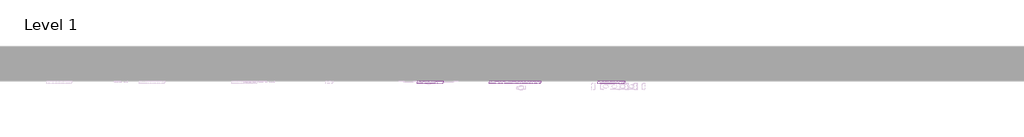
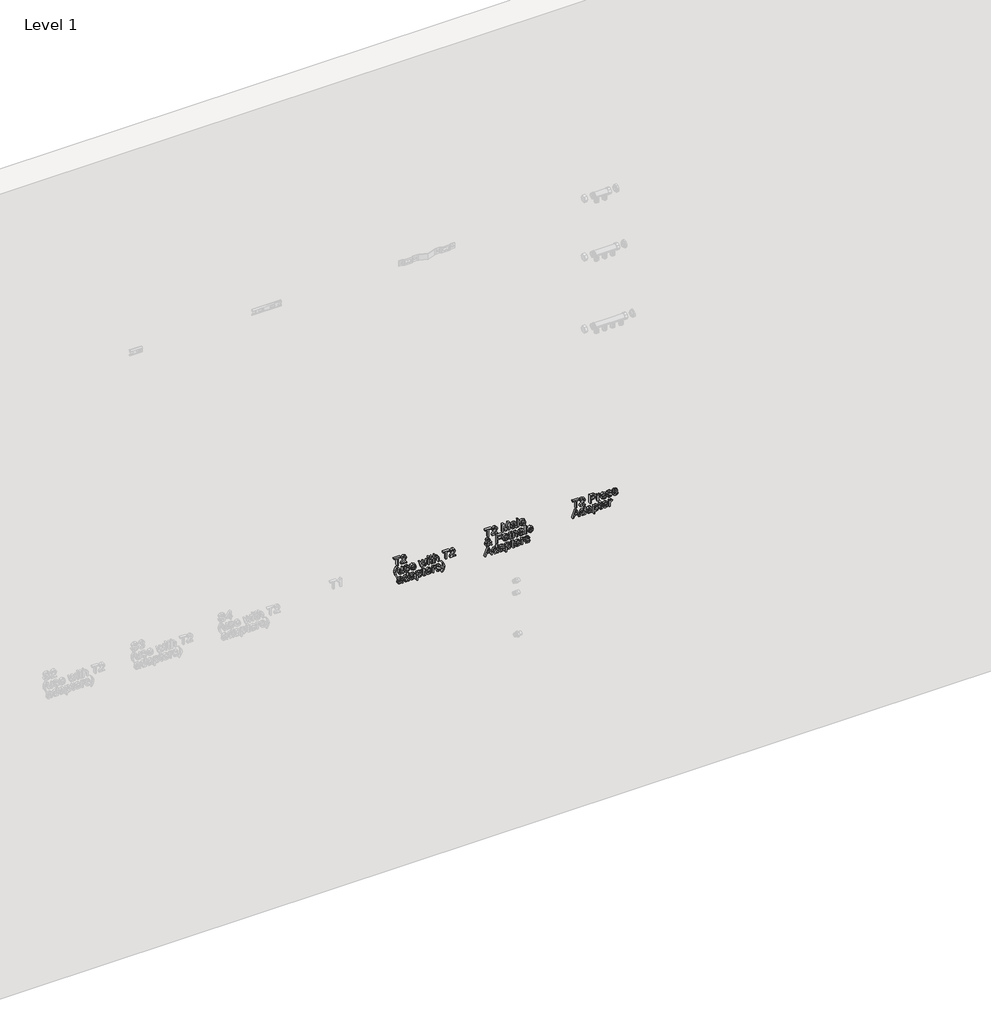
# One storey, part 16 of 57: 3 proxies.
"""IFC4 building model written with IfcOpenShell, lengths in millimetres."""

from ifc_helpers import new_model, si_unit, frame, origin, place, context, project, spatial, polyline, outline, extrude, element, save

model = new_model("IFC4")

# Units and contexts
model_context = context("Model", 3, world=origin())
ifc_project = project(units=[si_unit("LENGTHUNIT", "METRE", prefix="MILLI")], contexts=[model_context])

# Site, building, storey
site = spatial("IfcSite", under=ifc_project)
building = spatial("IfcBuilding", under=site)
storey = spatial("IfcBuildingStorey", under=building, Name="Level 1", Elevation=27.3876384)

# Proxies
placement = place(None, origin())
element("IfcBuildingElementProxy", 1, Name="50mm Arial", ObjectType="50mm Arial", at=placement, inside=storey, context=model_context, shape_type="SweptSolid", body=[
    extrude(outline(polyline([(1988.1712456, 14625.3304746), (1988.1712456, 14631.608994), (2032.1208813, 14631.608994), (2032.1208813, 14648.0901074), (2038.3994007, 14648.0901074), (2038.3994007, 14608.8493612), (2032.1208813, 14608.8493612), (2032.1208813, 14625.3304746), (1988.1712456, 14625.3304746)])), frame((0.0, 4529.8703674, 0.0), z_axis=(0.0, 1.0, 0.0), x_axis=(0.0, 0.0, 1.0)), (0.0, 0.0, 1.0), 15.0),
    extrude(outline(polyline([(1994.449765, 14684.9764088), (1994.449765, 14660.3160524), (1997.644207, 14663.1487437), (2003.6836031, 14670.3714936), (2012.2859104, 14679.3662084), (2018.4418024, 14683.0756851), (2024.3953594, 14684.1915939), (2034.3772242, 14680.0529214), (2038.3994007, 14668.8141265), (2034.7818944, 14657.6121197), (2024.2727321, 14652.7989969), (2023.4879171, 14659.0775163), (2029.8277502, 14661.7201353), (2032.1208813, 14668.6792364), (2029.7725679, 14675.3562946), (2024.0152147, 14677.9130745), (2016.9028294, 14675.2030104), (2006.442718, 14664.3627543), (1999.1647859, 14656.5023424), (1992.4999904, 14652.6886323), (1988.1712456, 14652.014182), (1988.1712456, 14684.9764088), (1994.449765, 14684.9764088)])), frame((0.0, 4529.8703674, 0.0), z_axis=(0.0, 1.0, 0.0), x_axis=(0.0, 0.0, 1.0)), (0.0, 0.0, 1.0), 15.0),
    extrude(outline(polyline([(1913.0571681, 14624.5456597), (1913.0571681, 14629.2545492), (1929.1397426, 14621.0139926), (1945.2345799, 14618.2671403), (1957.8284069, 14619.8490329), (1967.4669151, 14623.3807001), (1977.4119917, 14629.2545492), (1977.4119917, 14624.5456597), (1960.5384709, 14614.7109477), (1945.2713681, 14611.9886209), (1927.7847106, 14615.6306527), (1913.0571681, 14624.5456597)])), frame((0.0, 4529.8703674, 0.0), z_axis=(0.0, 1.0, 0.0), x_axis=(0.0, 0.0, 1.0)), (0.0, 0.0, 1.0), 15.0),
    extrude(outline(polyline([(1927.1838367, 14659.0775163), (1927.1838367, 14665.3560357), (1964.0701381, 14665.3560357), (1964.0701381, 14659.0775163), (1944.8789606, 14659.0775163), (1937.8830714, 14658.0597095), (1934.0754927, 14654.5954873), (1932.6775411, 14649.3531689), (1934.0448359, 14644.6749362), (1937.8033636, 14642.1917327), (1944.2045103, 14641.811588), (1964.0701381, 14641.811588), (1964.0701381, 14635.5330686), (1941.2491916, 14635.5330686), (1935.4121306, 14635.9009506), (1930.7890802, 14637.7710174), (1927.6498205, 14641.8422448), (1926.3990218, 14647.7467509), (1928.1801837, 14654.1601603), (1933.5236697, 14659.0775163), (1927.1838367, 14659.0775163)])), frame((0.0, 4529.8703674, 0.0), z_axis=(0.0, 1.0, 0.0), x_axis=(0.0, 0.0, 1.0)), (0.0, 0.0, 1.0), 15.0),
    extrude(outline(polyline([(1938.1712456, 14671.6345551), (1929.3666032, 14676.4415465), (1926.3990218, 14687.3921672), (1927.9379948, 14695.16674), (1932.2973964, 14700.4213212), (1938.3061357, 14702.2423371), (1943.7630519, 14700.6911013), (1947.1107781, 14696.4114075), (1950.0660968, 14687.1959635), (1951.4027347, 14681.7880982), (1952.7884235, 14679.4459161), (1954.6155708, 14678.6978894), (1957.3869485, 14680.5005112), (1958.5764336, 14686.5092504), (1957.3317662, 14692.0336117), (1953.8675441, 14694.3941879), (1954.652359, 14700.6727072), (1960.2870849, 14698.5144662), (1963.6225483, 14693.6584239), (1964.854953, 14686.0187411), (1964.0885322, 14680.6170071), (1962.2307281, 14676.6254875), (1958.6561414, 14673.5475415), (1953.9779087, 14672.41937), (1948.9133999, 14673.823453), (1945.3265504, 14677.9498627), (1942.2547357, 14687.4044299), (1940.4643767, 14693.8668903), (1937.6439481, 14695.9638177), (1934.1613318, 14693.8791531), (1932.6775411, 14687.4780063), (1934.2962219, 14680.8193422), (1938.9560605, 14677.9130745), (1938.1712456, 14671.6345551)])), frame((0.0, 4529.8703674, 0.0), z_axis=(0.0, 1.0, 0.0), x_axis=(0.0, 0.0, 1.0)), (0.0, 0.0, 1.0), 15.0),
    extrude(outline(polyline([(1938.1712456, 14735.1309875), (1933.9896536, 14731.0842855), (1932.6775411, 14724.9283935), (1935.5102325, 14716.8411209), (1943.6649501, 14713.229746), (1943.6649501, 14741.446295), (1945.3572072, 14741.4830832), (1959.7413932, 14736.7190114), (1964.854953, 14724.4501469), (1959.7291305, 14711.8195317), (1945.320419, 14706.9512266), (1931.3715601, 14711.7704808), (1926.3990218, 14724.8057661), (1929.280764, 14735.5295263), (1937.3864307, 14741.2868795), (1938.1712456, 14735.1309875)]), holes=[polyline([(1949.9434694, 14713.229746), (1956.2281202, 14716.6939681), (1958.5764336, 14724.4256214), (1955.6333776, 14732.6907036), (1949.9434694, 14735.2045639), (1949.9434694, 14713.229746)])]), frame((0.0, 4529.8703674, 0.0), z_axis=(0.0, 1.0, 0.0), x_axis=(0.0, 0.0, 1.0)), (0.0, 0.0, 1.0), 15.0),
    extrude(outline(polyline([(1927.1838367, 14773.5010796), (1927.1838367, 14781.1775505), (1955.5598012, 14787.3947562), (1948.815298, 14788.7927078), (1927.1838367, 14793.611962), (1927.1838367, 14801.2025938), (1964.0701381, 14812.5088338), (1964.0701381, 14805.9605343), (1942.6961941, 14799.583913), (1935.6205971, 14797.5973502), (1942.3283121, 14796.2116614), (1964.0701381, 14791.1716781), (1964.0701381, 14783.6914108), (1942.2669985, 14778.626902), (1934.8603076, 14777.0695349), (1942.5490413, 14775.1688113), (1964.0701381, 14768.8044527), (1964.0701381, 14762.2806787), (1927.1838367, 14773.5010796)])), frame((0.0, 4529.8703674, 0.0), z_axis=(0.0, 1.0, 0.0), x_axis=(0.0, 0.0, 1.0)), (0.0, 0.0, 1.0), 15.0),
    extrude(outline(polyline([(14823.1038352, 4529.8703674), (14816.8253159, 4529.8703674), (14816.8253159, 4544.8703674), (14823.1038352, 4544.8703674), (14823.1038352, 4529.8703674)])), frame((0.0, 0.0, 1971.1334724), z_axis=(0.0, 0.0, 1.0), x_axis=(1.0, 0.0, 0.0)), (0.0, 0.0, 1.0), 6.2785194),
    extrude(outline(polyline([(14823.1038352, 4529.8703674), (14816.8253159, 4529.8703674), (14816.8253159, 4544.8703674), (14823.1038352, 4544.8703674), (14823.1038352, 4529.8703674)])), frame((0.0, 0.0, 1927.1838367), z_axis=(0.0, 0.0, 1.0), x_axis=(1.0, 0.0, 0.0)), (0.0, 0.0, 1.0), 36.8863014),
    extrude(outline(polyline([(1932.4200237, 14845.863468), (1932.6775411, 14843.1288785), (1934.247171, 14839.9160424), (1937.4845325, 14839.5849486), (1957.7916187, 14839.5849486), (1957.7916187, 14845.863468), (1964.0701381, 14845.863468), (1964.0701381, 14839.5849486), (1976.7252787, 14839.5849486), (1973.034196, 14833.3064292), (1964.0701381, 14833.3064292), (1964.0701381, 14828.5975397), (1957.7916187, 14828.5975397), (1957.7916187, 14833.3064292), (1937.3005915, 14833.3064292), (1930.1759436, 14834.0667187), (1927.4413541, 14836.6909436), (1926.3990218, 14841.9516561), (1926.9998957, 14846.6482829), (1932.4200237, 14845.863468)])), frame((0.0, 4529.8703674, 0.0), z_axis=(0.0, 1.0, 0.0), x_axis=(0.0, 0.0, 1.0)), (0.0, 0.0, 1.0), 15.0),
    extrude(outline(polyline([(1927.1838367, 14852.1419874), (1927.1838367, 14858.4205068), (1946.7796843, 14858.4205068), (1953.3892975, 14859.444445), (1957.178482, 14862.8780103), (1958.5764336, 14868.0222268), (1956.5040317, 14873.6876096), (1949.8821558, 14875.6864351), (1927.1838367, 14875.6864351), (1927.1838367, 14881.9649545), (1950.5320806, 14881.9649545), (1958.7849001, 14880.6773675), (1963.2424036, 14876.3976736), (1964.854953, 14869.346602), (1958.9443156, 14858.4205068), (1977.4119917, 14858.4205068), (1977.4119917, 14852.1419874), (1927.1838367, 14852.1419874)])), frame((0.0, 4529.8703674, 0.0), z_axis=(0.0, 1.0, 0.0), x_axis=(0.0, 0.0, 1.0)), (0.0, 0.0, 1.0), 15.0),
    extrude(outline(polyline([(1927.1838367, 14923.5601454), (1927.1838367, 14929.8386648), (1971.1334724, 14929.8386648), (1971.1334724, 14946.3197782), (1977.4119917, 14946.3197782), (1977.4119917, 14907.079032), (1971.1334724, 14907.079032), (1971.1334724, 14923.5601454), (1927.1838367, 14923.5601454)])), frame((0.0, 4529.8703674, 0.0), z_axis=(0.0, 1.0, 0.0), x_axis=(0.0, 0.0, 1.0)), (0.0, 0.0, 1.0), 15.0),
    extrude(outline(polyline([(1933.4623561, 14983.2060795), (1933.4623561, 14958.5457231), (1936.6567981, 14961.3784145), (1942.6961941, 14968.6011643), (1951.2985015, 14977.5958791), (1957.4543935, 14981.3053559), (1963.4079505, 14982.4212646), (1973.3898153, 14978.2825922), (1977.4119917, 14967.0437972), (1973.7944855, 14955.8417905), (1963.2853231, 14951.0286677), (1962.5005082, 14957.3071871), (1968.8403413, 14959.9498061), (1971.1334724, 14966.9089071), (1968.785159, 14973.5859654), (1963.0278057, 14976.1427452), (1955.9154205, 14973.4326812), (1945.4553091, 14962.5924251), (1938.177377, 14954.7320131), (1931.5125815, 14950.9183031), (1927.1838367, 14950.2438528), (1927.1838367, 14983.2060795), (1933.4623561, 14983.2060795)])), frame((0.0, 4529.8703674, 0.0), z_axis=(0.0, 1.0, 0.0), x_axis=(0.0, 0.0, 1.0)), (0.0, 0.0, 1.0), 15.0),
    extrude(outline(polyline([(1870.9053173, 14655.1534417), (1866.1964278, 14656.7230715), (1866.1964278, 14663.0015909), (1871.4755344, 14661.7507921), (1882.3832355, 14661.4319611), (1890.1945966, 14661.4319611), (1895.688301, 14661.1253928), (1899.9496008, 14659.2001436), (1902.7516353, 14654.9020557), (1903.8675441, 14647.2930297), (1902.6044825, 14639.0095535), (1899.0115017, 14633.5403745), (1892.8801351, 14630.8241791), (1892.0953202, 14637.1026985), (1896.3811455, 14640.1315936), (1897.5890247, 14646.4836893), (1895.7741402, 14653.4243963), (1889.7408754, 14655.1166535), (1887.5826344, 14644.2273464), (1886.638404, 14638.7949557), (1884.5782648, 14634.3987658), (1880.9730212, 14631.241112), (1876.0066143, 14630.0393642), (1868.391457, 14633.2215434), (1865.4116128, 14642.3388855), (1866.6501489, 14649.0649947), (1870.9053173, 14655.1534417)]), holes=[polyline([(1883.4623561, 14655.1534417), (1881.6842597, 14655.1166535), (1876.8282174, 14654.1233721), (1873.192317, 14650.0276192), (1871.6901322, 14643.6755235), (1873.0512956, 14638.1879504), (1876.4480727, 14636.3178835), (1878.8638311, 14637.1762749), (1880.5193001, 14639.6226901), (1881.537107, 14645.0244241), (1883.4623561, 14655.1534417)])]), frame((0.0, 4529.8703674, 0.0), z_axis=(0.0, 1.0, 0.0), x_axis=(0.0, 0.0, 1.0)), (0.0, 0.0, 1.0), 15.0),
    extrude(outline(polyline([(1866.1964278, 14692.824558), (1866.1964278, 14699.1030774), (1916.4245828, 14699.1030774), (1916.4245828, 14692.824558), (1897.711652, 14692.824558), (1902.1568928, 14688.6920169), (1903.8675441, 14682.9040069), (1901.4763111, 14674.8903107), (1894.5969178, 14669.5069709), (1884.6027902, 14667.7104805), (1874.6147941, 14669.660255), (1867.839634, 14675.1539595), (1865.4116128, 14682.9285323), (1867.0885416, 14688.6705571), (1872.1193279, 14692.824558), (1866.1964278, 14692.824558)]), holes=[polyline([(1884.6273157, 14673.9889999), (1894.4681591, 14676.6377502), (1897.5890247, 14683.2473634), (1894.3394004, 14690.0593117), (1884.1490691, 14692.824558), (1874.7619469, 14690.1083626), (1871.6901322, 14683.5048808), (1874.9090997, 14676.8216912), (1884.6273157, 14673.9889999)])]), frame((0.0, 4529.8703674, 0.0), z_axis=(0.0, 1.0, 0.0), x_axis=(0.0, 0.0, 1.0)), (0.0, 0.0, 1.0), 15.0),
    extrude(outline(polyline([(1870.9053173, 14732.0653042), (1866.1964278, 14733.634934), (1866.1964278, 14739.9134534), (1871.4755344, 14738.6626546), (1882.3832355, 14738.3438235), (1890.1945966, 14738.3438235), (1895.688301, 14738.0372552), (1899.9496008, 14736.1120061), (1902.7516353, 14731.8139181), (1903.8675441, 14724.2048922), (1902.6044825, 14715.9214159), (1899.0115017, 14710.4522369), (1892.8801351, 14707.7360415), (1892.0953202, 14714.0145609), (1896.3811455, 14717.043456), (1897.5890247, 14723.3955518), (1895.7741402, 14730.3362588), (1889.7408754, 14732.028516), (1887.5826344, 14721.1392089), (1886.638404, 14715.7068181), (1884.5782648, 14711.3106283), (1880.9730212, 14708.1529745), (1876.0066143, 14706.9512266), (1868.391457, 14710.1334059), (1865.4116128, 14719.250748), (1866.6501489, 14725.9768571), (1870.9053173, 14732.0653042)]), holes=[polyline([(1883.4623561, 14732.0653042), (1881.6842597, 14732.028516), (1876.8282174, 14731.0352346), (1873.192317, 14726.9394817), (1871.6901322, 14720.5873859), (1873.0512956, 14715.0998128), (1876.4480727, 14713.229746), (1878.8638311, 14714.0881373), (1880.5193001, 14716.5345526), (1881.537107, 14721.9362866), (1883.4623561, 14732.0653042)])]), frame((0.0, 4529.8703674, 0.0), z_axis=(0.0, 1.0, 0.0), x_axis=(0.0, 0.0, 1.0)), (0.0, 0.0, 1.0), 15.0),
    extrude(outline(polyline([(1852.0697591, 14746.9767877), (1852.0697591, 14753.2553071), (1871.101521, 14753.2553071), (1867.0241622, 14757.234564), (1865.4116128, 14762.6976116), (1867.8212399, 14770.6377314), (1874.7496841, 14776.3889532), (1884.9216213, 14778.3693846), (1894.5969178, 14776.6158138), (1901.4395229, 14771.4164149), (1903.8675441, 14763.4579011), (1902.1323673, 14757.5963146), (1896.9268371, 14753.2553071), (1903.0827291, 14753.2553071), (1903.0827291, 14746.9767877), (1852.0697591, 14746.9767877)]), holes=[polyline([(1884.3452728, 14753.2553071), (1894.198379, 14756.1554435), (1897.5890247, 14762.820239), (1894.400714, 14769.3562757), (1884.8112567, 14772.0908652), (1874.8907056, 14769.2888307), (1871.6901322, 14762.5627216), (1874.780341, 14755.9715025), (1884.3452728, 14753.2553071)])]), frame((0.0, 4529.8703674, 0.0), z_axis=(0.0, 1.0, 0.0), x_axis=(0.0, 0.0, 1.0)), (0.0, 0.0, 1.0), 15.0),
    extrude(outline(polyline([(1871.4326148, 14798.7745726), (1871.6901322, 14796.0399831), (1873.2597621, 14792.827147), (1876.4971236, 14792.4960532), (1896.8042098, 14792.4960532), (1896.8042098, 14798.7745726), (1903.0827291, 14798.7745726), (1903.0827291, 14792.4960532), (1915.7378698, 14792.4960532), (1912.0467871, 14786.2175339), (1903.0827291, 14786.2175339), (1903.0827291, 14781.5086443), (1896.8042098, 14781.5086443), (1896.8042098, 14786.2175339), (1876.3131826, 14786.2175339), (1869.1885346, 14786.9778233), (1866.4539451, 14789.6020482), (1865.4116128, 14794.8627607), (1866.0124868, 14799.5593875), (1871.4326148, 14798.7745726)])), frame((0.0, 4529.8703674, 0.0), z_axis=(0.0, 1.0, 0.0), x_axis=(0.0, 0.0, 1.0)), (0.0, 0.0, 1.0), 15.0),
    extrude(outline(polyline([(1877.1838367, 14830.8784081), (1873.0022447, 14826.8317061), (1871.6901322, 14820.6758141), (1874.5228236, 14812.5885415), (1882.6775411, 14808.9771666), (1882.6775411, 14837.1937156), (1884.3697983, 14837.2305038), (1898.7539843, 14832.466432), (1903.8675441, 14820.1975675), (1898.7417216, 14807.5669523), (1884.3330101, 14802.6986472), (1870.3841511, 14807.5179014), (1865.4116128, 14820.5531867), (1868.2933551, 14831.2769469), (1876.3990218, 14837.0343001), (1877.1838367, 14830.8784081)]), holes=[polyline([(1888.9560605, 14808.9771666), (1895.2407113, 14812.4413887), (1897.5890247, 14820.173042), (1894.6459687, 14828.4381242), (1888.9560605, 14830.9519845), (1888.9560605, 14808.9771666)])]), frame((0.0, 4529.8703674, 0.0), z_axis=(0.0, 1.0, 0.0), x_axis=(0.0, 0.0, 1.0)), (0.0, 0.0, 1.0), 15.0),
    extrude(outline(polyline([(1866.1964278, 14843.5090232), (1866.1964278, 14849.7875426), (1885.5838089, 14849.7875426), (1892.9169233, 14850.8053495), (1896.3504886, 14853.0678237), (1897.5890247, 14856.617885), (1896.3014377, 14861.0324689), (1901.9300322, 14863.1293963), (1903.8675441, 14856.8263515), (1902.6535335, 14852.9022768), (1897.6258129, 14849.0027277), (1903.0827291, 14849.0027277), (1903.0827291, 14843.5090232), (1866.1964278, 14843.5090232)])), frame((0.0, 4529.8703674, 0.0), z_axis=(0.0, 1.0, 0.0), x_axis=(0.0, 0.0, 1.0)), (0.0, 0.0, 1.0), 15.0),
    extrude(outline(polyline([(1877.1838367, 14864.6990262), (1868.3791943, 14869.5060176), (1865.4116128, 14880.4566383), (1866.9505858, 14888.2312111), (1871.3099875, 14893.4857923), (1877.3187267, 14895.3068082), (1882.775643, 14893.7555724), (1886.1233692, 14889.4758785), (1889.0786879, 14880.2604346), (1890.4153258, 14874.8525692), (1891.8010146, 14872.5103872), (1893.6281619, 14871.7623605), (1896.3995396, 14873.5649822), (1897.5890247, 14879.5737215), (1896.3443573, 14885.0980828), (1892.8801351, 14887.4586589), (1893.6649501, 14893.7371783), (1899.299676, 14891.5789373), (1902.6351394, 14886.7228949), (1903.8675441, 14879.0832122), (1903.1011232, 14873.6814782), (1901.2433192, 14869.6899586), (1897.6687324, 14866.6120125), (1892.9904997, 14865.4838411), (1887.9259909, 14866.887924), (1884.3391415, 14871.0143337), (1881.2673268, 14880.468901), (1879.4769678, 14886.9313614), (1876.6565391, 14889.0282888), (1873.1739229, 14886.9436241), (1871.6901322, 14880.5424774), (1873.308813, 14873.8838133), (1877.9686516, 14870.9775455), (1877.1838367, 14864.6990262)])), frame((0.0, 4529.8703674, 0.0), z_axis=(0.0, 1.0, 0.0), x_axis=(0.0, 0.0, 1.0)), (0.0, 0.0, 1.0), 15.0),
    extrude(outline(polyline([(1852.0697591, 14903.9397723), (1866.7973017, 14912.8363852), (1884.2839592, 14916.4968111), (1899.551062, 14913.7744843), (1916.4245828, 14903.9397723), (1916.4245828, 14899.2308828), (1906.3814044, 14905.1415202), (1896.7306334, 14908.6363991), (1884.247171, 14910.2182917), (1868.1523337, 14907.4714395), (1852.0697591, 14899.2308828), (1852.0697591, 14903.9397723)])), frame((0.0, 4529.8703674, 0.0), z_axis=(0.0, 1.0, 0.0), x_axis=(0.0, 0.0, 1.0)), (0.0, 0.0, 1.0), 15.0),
])
element("IfcBuildingElementProxy", 2, Name="50mm Arial", ObjectType="50mm Arial", at=placement, inside=storey, context=model_context, shape_type="SweptSolid", body=[
    extrude(outline(polyline([(1979.5382617, 15180.547799), (1979.5382617, 15186.8263184), (2023.4878973, 15186.8263184), (2023.4878973, 15203.3074318), (2029.7664167, 15203.3074318), (2029.7664167, 15164.0666856), (2023.4878973, 15164.0666856), (2023.4878973, 15180.547799), (1979.5382617, 15180.547799)])), frame((0.0, 4529.8703674, 0.0), z_axis=(0.0, 1.0, 0.0), x_axis=(0.0, 0.0, 1.0)), (0.0, 0.0, 1.0), 15.0),
    extrude(outline(polyline([(1985.816781, 15240.1937332), (1985.816781, 15215.5333768), (1989.011223, 15218.3660681), (1995.0506191, 15225.588818), (2003.6529264, 15234.5835327), (2009.8088185, 15238.2930095), (2015.7623754, 15239.4089182), (2025.7442403, 15235.2702458), (2029.7664167, 15224.0314508), (2026.1489104, 15212.8294441), (2015.6397481, 15208.0163213), (2014.8549332, 15214.2948407), (2021.1947662, 15216.9374597), (2023.4878973, 15223.8965608), (2021.1395839, 15230.573619), (2015.3822307, 15233.1303989), (2008.2698455, 15230.4203348), (1997.8097341, 15219.5800787), (1990.5318019, 15211.7196667), (1983.8670065, 15207.9059567), (1979.5382617, 15207.2315064), (1979.5382617, 15240.1937332), (1985.816781, 15240.1937332)])), frame((0.0, 4529.8703674, 0.0), z_axis=(0.0, 1.0, 0.0), x_axis=(0.0, 0.0, 1.0)), (0.0, 0.0, 1.0), 15.0),
    extrude(outline(polyline([(1979.5382617, 15268.4470704), (1979.5382617, 15274.7255898), (2023.4878973, 15274.7255898), (1979.5382617, 15287.3439422), (1979.5382617, 15295.854279), (2023.4878973, 15308.4726315), (1979.5382617, 15308.4726315), (1979.5382617, 15314.7511509), (2029.7664167, 15314.7511509), (2029.7664167, 15303.9476829), (1994.9770427, 15293.8431908), (1986.969478, 15291.5991106), (1994.3639061, 15289.5267087), (2029.7664167, 15279.2505383), (2029.7664167, 15268.4470704), (1979.5382617, 15268.4470704)])), frame((0.0, 4529.8703674, 0.0), z_axis=(0.0, 1.0, 0.0), x_axis=(0.0, 0.0, 1.0)), (0.0, 0.0, 1.0), 15.0),
    extrude(outline(polyline([(1984.2471512, 15348.4981925), (1979.5382617, 15350.0678224), (1979.5382617, 15356.3463418), (1984.8173683, 15355.095543), (1995.7250694, 15354.7767119), (2003.5364305, 15354.7767119), (2009.0301349, 15354.4701436), (2013.2914347, 15352.5448945), (2016.0934692, 15348.2468065), (2017.209378, 15340.6377806), (2015.9463164, 15332.3543043), (2012.3533356, 15326.8851253), (2006.221969, 15324.1689299), (2005.4371541, 15330.4474493), (2009.7229794, 15333.4763444), (2010.9308586, 15339.8284402), (2009.1159741, 15346.7691472), (2003.0827093, 15348.4614043), (2000.9244683, 15337.5720973), (1999.9802379, 15332.1397065), (1997.9200987, 15327.7435167), (1994.3148551, 15324.5858629), (1989.3484482, 15323.384115), (1981.7332909, 15326.5662943), (1978.7534467, 15335.6836364), (1979.9919828, 15342.4097455), (1984.2471512, 15348.4981925)]), holes=[polyline([(1996.80419, 15348.4981925), (1995.0260937, 15348.4614043), (1990.1700513, 15347.468123), (1986.5341509, 15343.3723701), (1985.0319661, 15337.0202743), (1986.3931295, 15331.5327012), (1989.7899066, 15329.6626344), (1992.205665, 15330.5210257), (1993.861134, 15332.967441), (1994.8789409, 15338.3691749), (1996.80419, 15348.4981925)])]), frame((0.0, 4529.8703674, 0.0), z_axis=(0.0, 1.0, 0.0), x_axis=(0.0, 0.0, 1.0)), (0.0, 0.0, 1.0), 15.0),
    extrude(outline(polyline([(15369.6881955, 4529.8703674), (15363.4096761, 4529.8703674), (15363.4096761, 4544.8703674), (15369.6881955, 4544.8703674), (15369.6881955, 4529.8703674)])), frame((0.0, 0.0, 1979.5382617), z_axis=(0.0, 0.0, 1.0), x_axis=(1.0, 0.0, 0.0)), (0.0, 0.0, 1.0), 50.2281551),
    extrude(outline(polyline([(1990.5256706, 15404.9312906), (1986.3440786, 15400.8845887), (1985.0319661, 15394.7286966), (1987.8646575, 15386.6414241), (1996.019375, 15383.0300492), (1996.019375, 15411.2465982), (1997.7116322, 15411.2833864), (2012.0958182, 15406.5193146), (2017.209378, 15394.25045), (2012.0835555, 15381.6198348), (1997.674844, 15376.7515298), (1983.725985, 15381.5707839), (1978.7534467, 15394.6060693), (1981.635189, 15405.3298294), (1989.7408557, 15411.0871827), (1990.5256706, 15404.9312906)]), holes=[polyline([(2002.2978944, 15383.0300492), (2008.5825452, 15386.4942713), (2010.9308586, 15394.2259245), (2007.9878026, 15402.4910067), (2002.2978944, 15405.004867), (2002.2978944, 15383.0300492)])]), frame((0.0, 4529.8703674, 0.0), z_axis=(0.0, 1.0, 0.0), x_axis=(0.0, 0.0, 1.0)), (0.0, 0.0, 1.0), 15.0),
    extrude(outline(polyline([(1924.7557957, 15196.0111055), (1917.7660378, 15202.5226169), (1922.5975547, 15207.2315064), (1930.2004492, 15199.6531373), (1940.5379333, 15204.0922467), (1941.8990967, 15197.8137273), (1934.946127, 15195.1036633), (1946.2646297, 15186.016978), (1951.9422752, 15193.0987064), (1958.6745157, 15195.4592826), (1966.3632494, 15192.2709719), (1969.5638227, 15184.0672034), (1966.2160966, 15175.3729256), (1958.3311591, 15171.9148349), (1953.6222696, 15173.0123495), (1947.2701738, 15177.3962766), (1940.7218743, 15168.5855028), (1932.370953, 15165.6363155), (1922.9409112, 15169.3028727), (1917.7660378, 15181.5656059), (1919.5134773, 15189.3524414), (1924.7557957, 15196.0111055)]), holes=[polyline([(1929.2807443, 15191.8049881), (1925.5038224, 15187.0409162), (1924.0445572, 15181.2713003), (1927.1715542, 15174.3551188), (1933.2048189, 15171.9148349), (1938.0118103, 15173.6990625), (1943.2725228, 15180.5968499), (1929.2807443, 15191.8049881)]), polyline([(1950.2254925, 15182.8409301), (1953.2175994, 15180.363858), (1955.7743793, 15178.7329145), (1958.0736418, 15178.1933542), (1961.7708558, 15179.7813782), (1963.2853033, 15183.7483724), (1961.7585931, 15187.6295274), (1957.8161244, 15189.1807632), (1954.1189103, 15188.0035408), (1950.2254925, 15182.8409301)])]), frame((0.0, 4529.8703674, 0.0), z_axis=(0.0, 1.0, 0.0), x_axis=(0.0, 0.0, 1.0)), (0.0, 0.0, 1.0), 15.0),
    extrude(outline(polyline([(1918.5508527, 15233.9152138), (1918.5508527, 15240.1937332), (1941.3104855, 15240.1937332), (1941.3104855, 15263.7381809), (1947.5890049, 15263.7381809), (1947.5890049, 15240.1937332), (1962.5004884, 15240.1937332), (1962.5004884, 15267.6622555), (1968.7790078, 15267.6622555), (1968.7790078, 15233.9152138), (1918.5508527, 15233.9152138)])), frame((0.0, 4529.8703674, 0.0), z_axis=(0.0, 1.0, 0.0), x_axis=(0.0, 0.0, 1.0)), (0.0, 0.0, 1.0), 15.0),
    extrude(outline(polyline([(1929.5382617, 15301.3357208), (1925.3566696, 15297.2890188), (1924.0445572, 15291.1331268), (1926.8772486, 15283.0458542), (1935.0319661, 15279.4344793), (1935.0319661, 15307.6510284), (1936.7242233, 15307.6878165), (1951.1084093, 15302.9237447), (1956.221969, 15290.6548802), (1951.0961466, 15278.024265), (1936.6874351, 15273.1559599), (1922.7385761, 15277.9752141), (1917.7660378, 15291.0104994), (1920.6477801, 15301.7342596), (1928.7534467, 15307.4916128), (1929.5382617, 15301.3357208)]), holes=[polyline([(1941.3104855, 15279.4344793), (1947.5951363, 15282.8987014), (1949.9434497, 15290.6303547), (1947.0003937, 15298.8954369), (1941.3104855, 15301.4092972), (1941.3104855, 15279.4344793)])]), frame((0.0, 4529.8703674, 0.0), z_axis=(0.0, 1.0, 0.0), x_axis=(0.0, 0.0, 1.0)), (0.0, 0.0, 1.0), 15.0),
    extrude(outline(polyline([(1918.5508527, 15313.9663359), (1918.5508527, 15320.2448553), (1937.153419, 15320.2448553), (1944.6459489, 15321.2013485), (1948.594549, 15324.2915573), (1949.9434497, 15328.9391331), (1947.9200987, 15333.703205), (1941.837783, 15335.1563389), (1918.5508527, 15335.1563389), (1918.5508527, 15341.4348582), (1939.3729737, 15341.4348582), (1947.4295894, 15343.8935362), (1949.9434497, 15350.0678224), (1948.962431, 15353.6546718), (1946.3811257, 15355.763862), (1941.1388072, 15356.3463418), (1918.5508527, 15356.3463418), (1918.5508527, 15362.6248612), (1943.8366085, 15362.6248612), (1953.1869426, 15359.7492502), (1956.221969, 15351.5393504), (1954.3978875, 15345.3528015), (1948.9256428, 15340.4538396), (1954.3028513, 15336.9957488), (1956.221969, 15330.7049667), (1954.3396395, 15324.5613374), (1949.3671012, 15320.2448553), (1955.4371541, 15320.2448553), (1955.4371541, 15313.9663359), (1918.5508527, 15313.9663359)])), frame((0.0, 4529.8703674, 0.0), z_axis=(0.0, 1.0, 0.0), x_axis=(0.0, 0.0, 1.0)), (0.0, 0.0, 1.0), 15.0),
    extrude(outline(polyline([(1923.2597423, 15395.5870879), (1918.5508527, 15397.1567178), (1918.5508527, 15403.4352372), (1923.8299594, 15402.1844384), (1934.7376605, 15401.8656073), (1942.5490216, 15401.8656073), (1948.042726, 15401.559039), (1952.3040258, 15399.6337899), (1955.1060603, 15395.3357019), (1956.221969, 15387.726676), (1954.9589075, 15379.4431997), (1951.3659267, 15373.9740207), (1945.2345601, 15371.2578253), (1944.4497452, 15377.5363447), (1948.7355704, 15380.5652398), (1949.9434497, 15386.9173356), (1948.1285651, 15393.8580426), (1942.0953004, 15395.5502997), (1939.9370594, 15384.6609927), (1938.9928289, 15379.2286019), (1936.9326898, 15374.832412), (1933.3274462, 15371.6747582), (1928.3610393, 15370.4730104), (1920.745882, 15373.6551897), (1917.7660378, 15382.7725318), (1919.0045739, 15389.4986409), (1923.2597423, 15395.5870879)]), holes=[polyline([(1935.816781, 15395.5870879), (1934.0386847, 15395.5502997), (1929.1826424, 15394.5570183), (1925.546742, 15390.4612655), (1924.0445572, 15384.1091697), (1925.4057206, 15378.6215966), (1928.8024977, 15376.7515298), (1931.2182561, 15377.6099211), (1932.8737251, 15380.0563364), (1933.8915319, 15385.4580703), (1935.816781, 15395.5870879)])]), frame((0.0, 4529.8703674, 0.0), z_axis=(0.0, 1.0, 0.0), x_axis=(0.0, 0.0, 1.0)), (0.0, 0.0, 1.0), 15.0),
    extrude(outline(polyline([(15416.7770909, 4529.8703674), (15410.4985715, 4529.8703674), (15410.4985715, 4544.8703674), (15416.7770909, 4544.8703674), (15416.7770909, 4529.8703674)])), frame((0.0, 0.0, 1918.5508527), z_axis=(0.0, 0.0, 1.0), x_axis=(1.0, 0.0, 0.0)), (0.0, 0.0, 1.0), 50.2281551),
    extrude(outline(polyline([(1929.5382617, 15452.020186), (1925.3566696, 15447.973484), (1924.0445572, 15441.817592), (1926.8772486, 15433.7303195), (1935.0319661, 15430.1189445), (1935.0319661, 15458.3354936), (1936.7242233, 15458.3722818), (1951.1084093, 15453.6082099), (1956.221969, 15441.3393454), (1951.0961466, 15428.7087302), (1936.6874351, 15423.8404252), (1922.7385761, 15428.6596793), (1917.7660378, 15441.6949647), (1920.6477801, 15452.4187248), (1928.7534467, 15458.176078), (1929.5382617, 15452.020186)]), holes=[polyline([(1941.3104855, 15430.1189445), (1947.5951363, 15433.5831667), (1949.9434497, 15441.3148199), (1947.0003937, 15449.5799021), (1941.3104855, 15452.0937624), (1941.3104855, 15430.1189445)])]), frame((0.0, 4529.8703674, 0.0), z_axis=(0.0, 1.0, 0.0), x_axis=(0.0, 0.0, 1.0)), (0.0, 0.0, 1.0), 15.0),
    extrude(outline(polyline([(1857.5634438, 15162.1414365), (1857.5634438, 15168.7755752), (1873.2597423, 15174.5145343), (1873.2597423, 15195.2017652), (1857.5634438, 15200.952987), (1857.5634438, 15207.5871257), (1907.7915989, 15187.5375569), (1907.7915989, 15182.1910053), (1857.5634438, 15162.1414365)]), holes=[polyline([(1879.5382617, 15176.8199281), (1892.9659545, 15181.7372841), (1901.5130795, 15184.8642811), (1891.886834, 15188.3836855), (1879.5382617, 15192.9086341), (1879.5382617, 15176.8199281)])]), frame((0.0, 4529.8703674, 0.0), z_axis=(0.0, 1.0, 0.0), x_axis=(0.0, 0.0, 1.0)), (0.0, 0.0, 1.0), 15.0),
    extrude(outline(polyline([(1857.5634438, 15236.2696586), (1857.5634438, 15242.5481779), (1907.7915989, 15242.5481779), (1907.7915989, 15236.2696586), (1889.0786681, 15236.2696586), (1893.5239088, 15232.1371175), (1895.2345601, 15226.3491074), (1892.8433272, 15218.3354113), (1885.9639338, 15212.9520714), (1875.9698063, 15211.155581), (1865.9818101, 15213.1053556), (1859.2066501, 15218.5990601), (1856.7786289, 15226.3736329), (1858.4555577, 15232.1156577), (1863.4863439, 15236.2696586), (1857.5634438, 15236.2696586)]), holes=[polyline([(1875.9943318, 15217.4341004), (1885.8351751, 15220.0828508), (1888.9560407, 15226.6924639), (1885.7064164, 15233.5044122), (1875.5160852, 15236.2696586), (1866.1289629, 15233.5534632), (1863.0571483, 15226.9499813), (1866.2761157, 15220.2667918), (1875.9943318, 15217.4341004)])]), frame((0.0, 4529.8703674, 0.0), z_axis=(0.0, 1.0, 0.0), x_axis=(0.0, 0.0, 1.0)), (0.0, 0.0, 1.0), 15.0),
    extrude(outline(polyline([(1862.2723334, 15275.5104047), (1857.5634438, 15277.0800346), (1857.5634438, 15283.3585539), (1862.8425504, 15282.1077552), (1873.7502516, 15281.7889241), (1881.5616126, 15281.7889241), (1887.0553171, 15281.4823558), (1891.3166169, 15279.5571067), (1894.1186514, 15275.2590187), (1895.2345601, 15267.6499927), (1893.9714986, 15259.3665165), (1890.3785178, 15253.8973375), (1884.2471512, 15251.1811421), (1883.4623363, 15257.4596615), (1887.7481615, 15260.4885566), (1888.9560407, 15266.8406524), (1887.1411562, 15273.7813593), (1881.1078915, 15275.4736165), (1878.9496505, 15264.5843094), (1878.00542, 15259.1519187), (1875.9452808, 15254.7557288), (1872.3400373, 15251.598075), (1867.3736304, 15250.3963272), (1859.7584731, 15253.5785064), (1856.7786289, 15262.6958485), (1858.0171649, 15269.4219577), (1862.2723334, 15275.5104047)]), holes=[polyline([(1874.8293721, 15275.5104047), (1873.0512758, 15275.4736165), (1868.1952335, 15274.4803351), (1864.5593331, 15270.3845822), (1863.0571483, 15264.0324865), (1864.4183117, 15258.5449134), (1867.8150887, 15256.6748466), (1870.2308472, 15257.5332379), (1871.8863162, 15259.9796531), (1872.904123, 15265.3813871), (1874.8293721, 15275.5104047)])]), frame((0.0, 4529.8703674, 0.0), z_axis=(0.0, 1.0, 0.0), x_axis=(0.0, 0.0, 1.0)), (0.0, 0.0, 1.0), 15.0),
    extrude(outline(polyline([(1843.4367752, 15290.4218882), (1843.4367752, 15296.7004076), (1862.4685371, 15296.7004076), (1858.3911783, 15300.6796645), (1856.7786289, 15306.1427122), (1859.188256, 15314.0828319), (1866.1167002, 15319.8340538), (1876.2886374, 15321.8144852), (1885.9639338, 15320.0609143), (1892.806539, 15314.8615155), (1895.2345601, 15306.9030016), (1893.4993834, 15301.0414152), (1888.2938531, 15296.7004076), (1894.4497452, 15296.7004076), (1894.4497452, 15290.4218882), (1843.4367752, 15290.4218882)]), holes=[polyline([(1875.7122889, 15296.7004076), (1885.565395, 15299.600544), (1888.9560407, 15306.2653395), (1885.7677301, 15312.8013763), (1876.1782728, 15315.5359658), (1866.2577216, 15312.7339313), (1863.0571483, 15306.0078221), (1866.147357, 15299.416603), (1875.7122889, 15296.7004076)])]), frame((0.0, 4529.8703674, 0.0), z_axis=(0.0, 1.0, 0.0), x_axis=(0.0, 0.0, 1.0)), (0.0, 0.0, 1.0), 15.0),
    extrude(outline(polyline([(1862.7996309, 15342.2196732), (1863.0571483, 15339.4850837), (1864.6267781, 15336.2722476), (1867.8641397, 15335.9411538), (1888.1712258, 15335.9411538), (1888.1712258, 15342.2196732), (1894.4497452, 15342.2196732), (1894.4497452, 15335.9411538), (1907.1048858, 15335.9411538), (1903.4138031, 15329.6626344), (1894.4497452, 15329.6626344), (1894.4497452, 15324.9537449), (1888.1712258, 15324.9537449), (1888.1712258, 15329.6626344), (1867.6801987, 15329.6626344), (1860.5555507, 15330.4229239), (1857.8209612, 15333.0471488), (1856.7786289, 15338.3078613), (1857.3795028, 15343.0044881), (1862.7996309, 15342.2196732)])), frame((0.0, 4529.8703674, 0.0), z_axis=(0.0, 1.0, 0.0), x_axis=(0.0, 0.0, 1.0)), (0.0, 0.0, 1.0), 15.0),
    extrude(outline(polyline([(1868.5508527, 15374.3235086), (1864.3692607, 15370.2768067), (1863.0571483, 15364.1209146), (1865.8898396, 15356.0336421), (1874.0445572, 15352.4222672), (1874.0445572, 15380.6388162), (1875.7368144, 15380.6756044), (1890.1210004, 15375.9115326), (1895.2345601, 15363.642668), (1890.1087377, 15351.0120528), (1875.7000262, 15346.1437478), (1861.7511672, 15350.9630019), (1856.7786289, 15363.9982873), (1859.6603712, 15374.7220474), (1867.7660378, 15380.4794007), (1868.5508527, 15374.3235086)]), holes=[polyline([(1880.3230766, 15352.4222672), (1886.6077273, 15355.8864893), (1888.9560407, 15363.6181425), (1886.0129848, 15371.8832247), (1880.3230766, 15374.397085), (1880.3230766, 15352.4222672)])]), frame((0.0, 4529.8703674, 0.0), z_axis=(0.0, 1.0, 0.0), x_axis=(0.0, 0.0, 1.0)), (0.0, 0.0, 1.0), 15.0),
    extrude(outline(polyline([(1857.5634438, 15386.9541238), (1857.5634438, 15393.2326432), (1876.950825, 15393.2326432), (1884.2839394, 15394.25045), (1887.7175047, 15396.5129243), (1888.9560407, 15400.0629855), (1887.6684538, 15404.4775695), (1893.2970483, 15406.5744969), (1895.2345601, 15400.271452), (1894.0205495, 15396.3473774), (1888.9928289, 15392.4478282), (1894.4497452, 15392.4478282), (1894.4497452, 15386.9541238), (1857.5634438, 15386.9541238)])), frame((0.0, 4529.8703674, 0.0), z_axis=(0.0, 1.0, 0.0), x_axis=(0.0, 0.0, 1.0)), (0.0, 0.0, 1.0), 15.0),
    extrude(outline(polyline([(1868.5508527, 15408.1441267), (1859.7462103, 15412.9511181), (1856.7786289, 15423.9017388), (1858.3176019, 15431.6763117), (1862.6770035, 15436.9308928), (1868.6857428, 15438.7519087), (1874.1426591, 15437.200673), (1877.4903852, 15432.9209791), (1880.4457039, 15423.7055351), (1881.7823418, 15418.2976698), (1883.1680307, 15415.9554877), (1884.9951779, 15415.207461), (1887.7665556, 15417.0100828), (1888.9560407, 15423.018822), (1887.7113733, 15428.5431833), (1884.2471512, 15430.9037595), (1885.0319661, 15437.1822789), (1890.666692, 15435.0240378), (1894.0021554, 15430.1679955), (1895.2345601, 15422.5283127), (1894.4681393, 15417.1265787), (1892.6103352, 15413.1350591), (1889.0357485, 15410.0571131), (1884.3575158, 15408.9289416), (1879.293007, 15410.3330246), (1875.7061575, 15414.4594343), (1872.6343429, 15423.9140016), (1870.8439838, 15430.3764619), (1868.0235552, 15432.4733893), (1864.540939, 15430.3887247), (1863.0571483, 15423.987578), (1864.6758291, 15417.3289138), (1869.3356677, 15414.4226461), (1868.5508527, 15408.1441267)])), frame((0.0, 4529.8703674, 0.0), z_axis=(0.0, 1.0, 0.0), x_axis=(0.0, 0.0, 1.0)), (0.0, 0.0, 1.0), 15.0),
])
element("IfcBuildingElementProxy", 3, Name="50mm Arial", ObjectType="50mm Arial", at=placement, inside=storey, context=model_context, shape_type="SweptSolid", body=[
    extrude(outline(polyline([(1978.1436937, 15716.3450629), (1978.1436937, 15722.6235823), (2022.0933294, 15722.6235823), (2022.0933294, 15739.1046957), (2028.3718488, 15739.1046957), (2028.3718488, 15699.8639495), (2022.0933294, 15699.8639495), (2022.0933294, 15716.3450629), (1978.1436937, 15716.3450629)])), frame((0.0, 4529.8703674, 0.0), z_axis=(0.0, 1.0, 0.0), x_axis=(0.0, 0.0, 1.0)), (0.0, 0.0, 1.0), 15.0),
    extrude(outline(polyline([(1984.4222131, 15775.9909971), (1984.4222131, 15751.3306407), (1987.6166551, 15754.163332), (1993.6560512, 15761.3860819), (2002.2583585, 15770.3807967), (2008.4142505, 15774.0902734), (2014.3678075, 15775.2061822), (2024.3496723, 15771.0675097), (2028.3718488, 15759.8287148), (2024.7543425, 15748.626708), (2014.2451802, 15743.8135852), (2013.4603652, 15750.0921046), (2019.8001983, 15752.7347236), (2022.0933294, 15759.6938247), (2019.745016, 15766.3708829), (2013.9876628, 15768.9276628), (2006.8752775, 15766.2175987), (1996.4151661, 15755.3773426), (1989.137234, 15747.5169307), (1982.4724385, 15743.7032206), (1978.1436937, 15743.0287703), (1978.1436937, 15775.9909971), (1984.4222131, 15775.9909971)])), frame((0.0, 4529.8703674, 0.0), z_axis=(0.0, 1.0, 0.0), x_axis=(0.0, 0.0, 1.0)), (0.0, 0.0, 1.0), 15.0),
    extrude(outline(polyline([(1978.1436937, 15804.2443343), (1978.1436937, 15810.5228537), (1998.5488817, 15810.5228537), (1998.5488817, 15823.2883589), (2002.9879911, 15837.87488), (2013.84051, 15841.9154506), (2020.6892464, 15840.4193972), (2025.5452888, 15836.4646657), (2027.8936022, 15830.363956), (2028.3718488, 15822.8591633), (2028.3718488, 15804.2443343), (1978.1436937, 15804.2443343)]), holes=[polyline([(2004.8274011, 15810.5228537), (2022.0933294, 15810.5228537), (2022.0933294, 15823.5090881), (2021.6641337, 15829.7876075), (2018.8191796, 15834.0243818), (2013.6197808, 15835.6369312), (2007.1327949, 15832.9023417), (2004.8274011, 15823.6562409), (2004.8274011, 15810.5228537)])]), frame((0.0, 4529.8703674, 0.0), z_axis=(0.0, 1.0, 0.0), x_axis=(0.0, 0.0, 1.0)), (0.0, 0.0, 1.0), 15.0),
    extrude(outline(polyline([(1978.1436937, 15849.7635998), (1978.1436937, 15856.0421192), (1997.5310748, 15856.0421192), (2004.8641893, 15857.0599261), (2008.2977546, 15859.3224004), (2009.5362906, 15862.8724616), (2008.2487036, 15867.2870455), (2013.8772982, 15869.3839729), (2015.81481, 15863.0809281), (2014.6007994, 15859.1568535), (2009.5730788, 15855.2573043), (2015.0299951, 15855.2573043), (2015.0299951, 15849.7635998), (1978.1436937, 15849.7635998)])), frame((0.0, 4529.8703674, 0.0), z_axis=(0.0, 1.0, 0.0), x_axis=(0.0, 0.0, 1.0)), (0.0, 0.0, 1.0), 15.0),
    extrude(outline(polyline([(1989.1311026, 15899.1333636), (1984.9495106, 15895.0866616), (1983.6373982, 15888.9307696), (1986.4700895, 15880.8434971), (1994.6248071, 15877.2321221), (1994.6248071, 15905.4486712), (1996.3170643, 15905.4854594), (2010.7012503, 15900.7213875), (2015.81481, 15888.452523), (2010.6889875, 15875.8219078), (1996.2802761, 15870.9536028), (1982.3314171, 15875.7728569), (1977.3588788, 15888.8081423), (1980.2406211, 15899.5319024), (1988.3462877, 15905.2892556), (1989.1311026, 15899.1333636)]), holes=[polyline([(2000.9033265, 15877.2321221), (2007.1879772, 15880.6963443), (2009.5362906, 15888.4279975), (2006.5932347, 15896.6930797), (2000.9033265, 15899.20694), (2000.9033265, 15877.2321221)])]), frame((0.0, 4529.8703674, 0.0), z_axis=(0.0, 1.0, 0.0), x_axis=(0.0, 0.0, 1.0)), (0.0, 0.0, 1.0), 15.0),
    extrude(outline(polyline([(1989.1311026, 15909.409534), (1980.3264602, 15914.2165254), (1977.3588788, 15925.1671461), (1978.8978518, 15932.941719), (1983.2572534, 15938.1963001), (1989.2659927, 15940.017316), (1994.7229089, 15938.4660802), (1998.0706351, 15934.1863864), (2001.0259538, 15924.9709424), (2002.3625917, 15919.5630771), (2003.7482806, 15917.220895), (2005.5754278, 15916.4728683), (2008.3468055, 15918.2754901), (2009.5362906, 15924.2842293), (2008.2916232, 15929.8085906), (2004.8274011, 15932.1691668), (2005.612216, 15938.4476861), (2011.2469419, 15936.2894451), (2014.5824053, 15931.4334028), (2015.81481, 15923.79372), (2015.0483892, 15918.391986), (2013.1905851, 15914.4004664), (2009.6159984, 15911.3225204), (2004.9377657, 15910.1943489), (1999.8732569, 15911.5984319), (1996.2864074, 15915.7248416), (1993.2145928, 15925.1794089), (1991.4242337, 15931.6418692), (1988.6038051, 15933.7387966), (1985.1211889, 15931.654132), (1983.6373982, 15925.2529853), (1985.2560789, 15918.5943211), (1989.9159175, 15915.6880534), (1989.1311026, 15909.409534)])), frame((0.0, 4529.8703674, 0.0), z_axis=(0.0, 1.0, 0.0), x_axis=(0.0, 0.0, 1.0)), (0.0, 0.0, 1.0), 15.0),
    extrude(outline(polyline([(1989.1311026, 15944.7262055), (1980.3264602, 15949.5331969), (1977.3588788, 15960.4838177), (1978.8978518, 15968.2583905), (1983.2572534, 15973.5129717), (1989.2659927, 15975.3339875), (1994.7229089, 15973.7827518), (1998.0706351, 15969.5030579), (2001.0259538, 15960.2876139), (2002.3625917, 15954.8797486), (2003.7482806, 15952.5375666), (2005.5754278, 15951.7895398), (2008.3468055, 15953.5921616), (2009.5362906, 15959.6009009), (2008.2916232, 15965.1252622), (2004.8274011, 15967.4858383), (2005.612216, 15973.7643577), (2011.2469419, 15971.6061166), (2014.5824053, 15966.7500743), (2015.81481, 15959.1103915), (2015.0483892, 15953.7086576), (2013.1905851, 15949.7171379), (2009.6159984, 15946.6391919), (2004.9377657, 15945.5110205), (1999.8732569, 15946.9151034), (1996.2864074, 15951.0415131), (1993.2145928, 15960.4960804), (1991.4242337, 15966.9585408), (1988.6038051, 15969.0554681), (1985.1211889, 15966.9708035), (1983.6373982, 15960.5696568), (1985.2560789, 15953.9109927), (1989.9159175, 15951.0047249), (1989.1311026, 15944.7262055)])), frame((0.0, 4529.8703674, 0.0), z_axis=(0.0, 1.0, 0.0), x_axis=(0.0, 0.0, 1.0)), (0.0, 0.0, 1.0), 15.0),
    extrude(outline(polyline([(1917.1562848, 15697.9387004), (1917.1562848, 15704.5728391), (1932.8525832, 15710.3117982), (1932.8525832, 15730.9990291), (1917.1562848, 15736.7502509), (1917.1562848, 15743.3843896), (1967.3844399, 15723.3348208), (1967.3844399, 15717.9882692), (1917.1562848, 15697.9387004)]), holes=[polyline([(1939.1311026, 15712.617192), (1952.5587954, 15717.534548), (1961.1059205, 15720.661545), (1951.4796749, 15724.1809494), (1939.1311026, 15728.705898), (1939.1311026, 15712.617192)])]), frame((0.0, 4529.8703674, 0.0), z_axis=(0.0, 1.0, 0.0), x_axis=(0.0, 0.0, 1.0)), (0.0, 0.0, 1.0), 15.0),
    extrude(outline(polyline([(1917.1562848, 15772.0669225), (1917.1562848, 15778.3454418), (1967.3844399, 15778.3454418), (1967.3844399, 15772.0669225), (1948.671509, 15772.0669225), (1953.1167498, 15767.9343814), (1954.8274011, 15762.1463713), (1952.4361681, 15754.1326752), (1945.5567748, 15748.7493353), (1935.5626473, 15746.9528449), (1925.5746511, 15748.9026195), (1918.799491, 15754.396324), (1916.3714699, 15762.1708968), (1918.0483986, 15767.9129216), (1923.0791849, 15772.0669225), (1917.1562848, 15772.0669225)]), holes=[polyline([(1935.5871727, 15753.2313643), (1945.4280161, 15755.8801147), (1948.5488817, 15762.4897279), (1945.2992574, 15769.3016761), (1935.1089261, 15772.0669225), (1925.7218039, 15769.3507271), (1922.6499892, 15762.7472453), (1925.8689567, 15756.0640557), (1935.5871727, 15753.2313643)])]), frame((0.0, 4529.8703674, 0.0), z_axis=(0.0, 1.0, 0.0), x_axis=(0.0, 0.0, 1.0)), (0.0, 0.0, 1.0), 15.0),
    extrude(outline(polyline([(1921.8651743, 15811.3076686), (1917.1562848, 15812.8772985), (1917.1562848, 15819.1558178), (1922.4353914, 15817.9050191), (1933.3430926, 15817.586188), (1941.1544536, 15817.586188), (1946.6481581, 15817.2796197), (1950.9094578, 15815.3543706), (1953.7114924, 15811.0562826), (1954.8274011, 15803.4472567), (1953.5643396, 15795.1637804), (1949.9713587, 15789.6946014), (1943.8399922, 15786.978406), (1943.0551772, 15793.2569254), (1947.3410025, 15796.2858205), (1948.5488817, 15802.6379163), (1946.7339972, 15809.5786232), (1940.7007325, 15811.2708804), (1938.5424914, 15800.3815734), (1937.598261, 15794.9491826), (1935.5381218, 15790.5529927), (1931.9328782, 15787.3953389), (1926.9664713, 15786.1935911), (1919.351314, 15789.3757703), (1916.3714699, 15798.4931124), (1917.6100059, 15805.2192216), (1921.8651743, 15811.3076686)]), holes=[polyline([(1934.4222131, 15811.3076686), (1932.6441168, 15811.2708804), (1927.7880744, 15810.277599), (1924.1521741, 15806.1818461), (1922.6499892, 15799.8297504), (1924.0111526, 15794.3421773), (1927.4079297, 15792.4721105), (1929.8236881, 15793.3305018), (1931.4791571, 15795.7769171), (1932.496964, 15801.178651), (1934.4222131, 15811.3076686)])]), frame((0.0, 4529.8703674, 0.0), z_axis=(0.0, 1.0, 0.0), x_axis=(0.0, 0.0, 1.0)), (0.0, 0.0, 1.0), 15.0),
    extrude(outline(polyline([(1903.0296162, 15826.2191522), (1903.0296162, 15832.4976715), (1922.061378, 15832.4976715), (1917.9840193, 15836.4769285), (1916.3714699, 15841.9399761), (1918.7810969, 15849.8800958), (1925.7095412, 15855.6313177), (1935.8814783, 15857.6117491), (1945.5567748, 15855.8581782), (1952.3993799, 15850.6587794), (1954.8274011, 15842.7002655), (1953.0922243, 15836.8386791), (1947.8866941, 15832.4976715), (1954.0425862, 15832.4976715), (1954.0425862, 15826.2191522), (1903.0296162, 15826.2191522)]), holes=[polyline([(1935.3051299, 15832.4976715), (1945.158236, 15835.3978079), (1948.5488817, 15842.0626034), (1945.3605711, 15848.5986402), (1935.7711137, 15851.3332297), (1925.8505626, 15848.5311952), (1922.6499892, 15841.805086), (1925.740198, 15835.2138669), (1935.3051299, 15832.4976715)])]), frame((0.0, 4529.8703674, 0.0), z_axis=(0.0, 1.0, 0.0), x_axis=(0.0, 0.0, 1.0)), (0.0, 0.0, 1.0), 15.0),
    extrude(outline(polyline([(1922.3924718, 15878.0169371), (1922.6499892, 15875.2823476), (1924.2196191, 15872.0695115), (1927.4569806, 15871.7384177), (1947.7640668, 15871.7384177), (1947.7640668, 15878.0169371), (1954.0425862, 15878.0169371), (1954.0425862, 15871.7384177), (1966.6977268, 15871.7384177), (1963.0066441, 15865.4598983), (1954.0425862, 15865.4598983), (1954.0425862, 15860.7510088), (1947.7640668, 15860.7510088), (1947.7640668, 15865.4598983), (1927.2730396, 15865.4598983), (1920.1483917, 15866.2201878), (1917.4138022, 15868.8444127), (1916.3714699, 15874.1051252), (1916.9723438, 15878.801752), (1922.3924718, 15878.0169371)])), frame((0.0, 4529.8703674, 0.0), z_axis=(0.0, 1.0, 0.0), x_axis=(0.0, 0.0, 1.0)), (0.0, 0.0, 1.0), 15.0),
    extrude(outline(polyline([(1928.1436937, 15910.1207725), (1923.9621017, 15906.0740706), (1922.6499892, 15899.9181785), (1925.4826806, 15891.830906), (1933.6373982, 15888.2195311), (1933.6373982, 15916.4360801), (1935.3296553, 15916.4728683), (1949.7138413, 15911.7087965), (1954.8274011, 15899.4399319), (1949.7015786, 15886.8093168), (1935.2928671, 15881.9410117), (1921.3440082, 15886.7602658), (1916.3714699, 15899.7955512), (1919.2532121, 15910.5193113), (1927.3588788, 15916.2766646), (1928.1436937, 15910.1207725)]), holes=[polyline([(1939.9159175, 15888.2195311), (1946.2005683, 15891.6837532), (1948.5488817, 15899.4154065), (1945.6058257, 15907.6804886), (1939.9159175, 15910.1943489), (1939.9159175, 15888.2195311)])]), frame((0.0, 4529.8703674, 0.0), z_axis=(0.0, 1.0, 0.0), x_axis=(0.0, 0.0, 1.0)), (0.0, 0.0, 1.0), 15.0),
    extrude(outline(polyline([(1917.1562848, 15922.7513877), (1917.1562848, 15929.0299071), (1936.5436659, 15929.0299071), (1943.8767804, 15930.0477139), (1947.3103456, 15932.3101882), (1948.5488817, 15935.8602494), (1947.2612947, 15940.2748334), (1952.8898892, 15942.3717608), (1954.8274011, 15936.0687159), (1953.6133905, 15932.1446413), (1948.5856699, 15928.2450921), (1954.0425862, 15928.2450921), (1954.0425862, 15922.7513877), (1917.1562848, 15922.7513877)])), frame((0.0, 4529.8703674, 0.0), z_axis=(0.0, 1.0, 0.0), x_axis=(0.0, 0.0, 1.0)), (0.0, 0.0, 1.0), 15.0),
])

save(model, "model.ifc")
